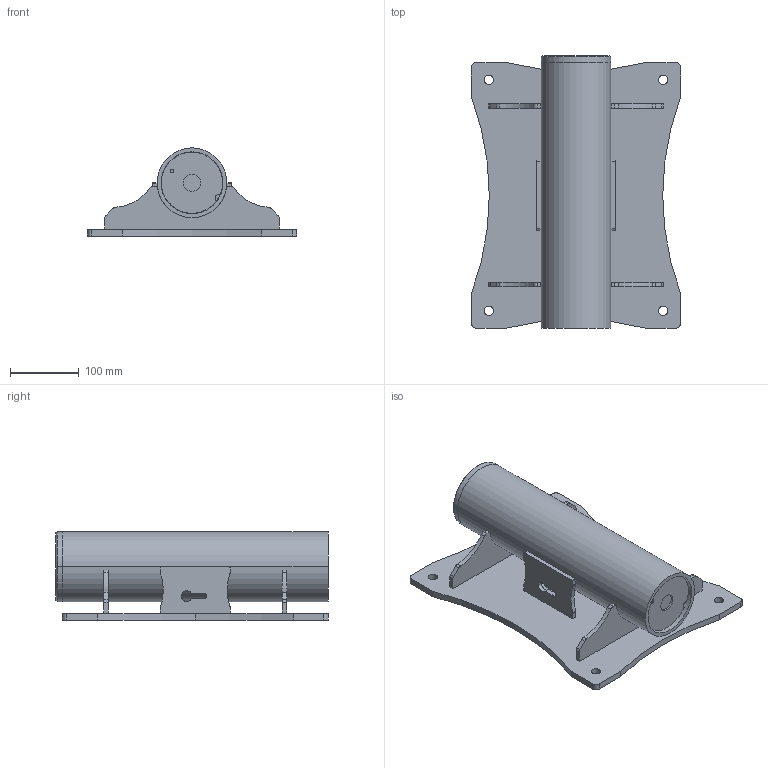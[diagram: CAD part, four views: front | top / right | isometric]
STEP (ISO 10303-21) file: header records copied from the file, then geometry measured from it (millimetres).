
FILE_DESCRIPTION (( 'STEP AP214' ), '1' );
FILE_NAME ('OZWALL2-SS.STEP', '2026-05-14T13:50:37', ( '' ), ( '' ), 'SwSTEP 2.0', 'SolidWorks 2023', '' );
FILE_SCHEMA (( 'AUTOMOTIVE_DESIGN' ));
Length unit declared in the file: inch
Products named in the file (11): OZWALL2-SS; 370-0282; 370-0000_NO BASE CAP; 366-0380; 370-0280; 370-0080_OZWALL2; 370-0281; 390-0391; 368-0281; 366-0290; 370-0180
Assembly tree (12 placements, depth 4):
  OZWALL2-SS
    370-0000_NO BASE CAP
      370-0080_OZWALL2
        370-0280
        370-0281  x2
        370-0180
        368-0281
        366-0380
        370-0282  x2
      390-0391
      366-0290
Bounding box: 304.8 x 396.88 x 128.59 mm (x, y, z)
Volume: 2112729.6 mm3; surface area: 621572.8 mm2
Topology: 10 solids, 10 shells, 271 faces, 730 edges, 482 vertices
Faces by surface type: cylinder 131, plane 128, cone 10, torus 2
Entity records: 6579 total; most frequent: DIRECTION 1125, CARTESIAN_POINT 1121, ORIENTED_EDGE 1028, EDGE_CURVE 514, AXIS2_PLACEMENT_3D 404, VERTEX_POINT 338, LINE 317, VECTOR 317
